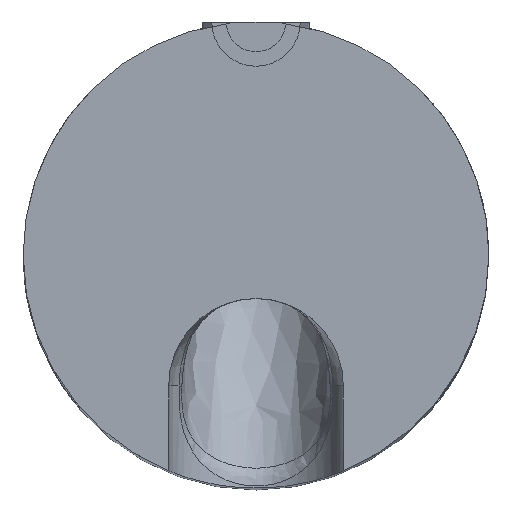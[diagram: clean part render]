
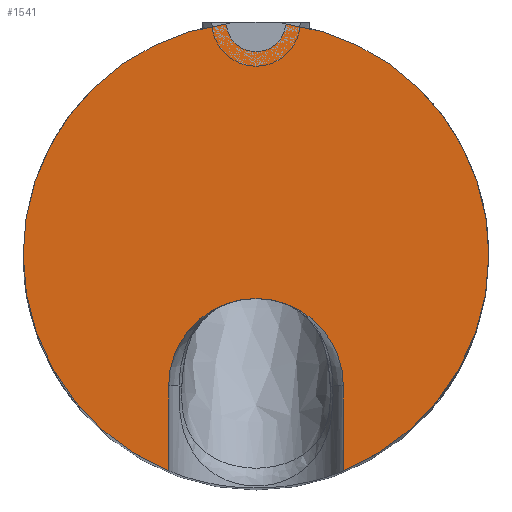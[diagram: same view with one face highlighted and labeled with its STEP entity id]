
A CAD part, top view. The second image highlights one B-rep face of the part: STEP entity #1541.
In plain terms, the highlighted planar face has unit normal (0, 0, 1).
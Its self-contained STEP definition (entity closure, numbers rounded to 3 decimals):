
#1=DIRECTION('',(0.,1.,0.));
#2=VECTOR('',#1,1.458);
#3=CARTESIAN_POINT('',(1.5,-7.708,0.6));
#4=LINE('',#3,#2);
#5=CARTESIAN_POINT('',(0.,-6.25,0.6));
#6=DIRECTION('',(0.,0.,1.));
#7=DIRECTION('',(1.,0.,0.));
#8=AXIS2_PLACEMENT_3D('',#5,#6,#7);
#10=CARTESIAN_POINT('',(0.,-4.,0.6));
#11=DIRECTION('',(0.,0.,-1.));
#12=DIRECTION('',(-0.375,-0.927,0.));
#13=AXIS2_PLACEMENT_3D('',#10,#11,#12);
#15=CARTESIAN_POINT('',(0.,-4.,0.6));
#16=DIRECTION('',(0.,0.,-1.));
#17=DIRECTION('',(-1.,0.,0.));
#18=AXIS2_PLACEMENT_3D('',#15,#16,#17);
#20=CARTESIAN_POINT('',(0.,0.,0.6));
#21=DIRECTION('',(0.,0.,1.));
#22=DIRECTION('',(-0.998,-0.064,0.));
#23=AXIS2_PLACEMENT_3D('',#20,#21,#22);
#25=CARTESIAN_POINT('',(0.,-4.,0.6));
#26=DIRECTION('',(0.,0.,-1.));
#27=DIRECTION('',(0.127,0.992,0.));
#28=AXIS2_PLACEMENT_3D('',#25,#26,#27);
#30=CARTESIAN_POINT('',(0.,-4.,0.6));
#31=DIRECTION('',(0.,0.,-1.));
#32=DIRECTION('',(1.,0.,0.));
#33=AXIS2_PLACEMENT_3D('',#30,#31,#32);
#1334=DIRECTION('',(0.,1.,0.));
#1335=VECTOR('',#1334,1.458);
#1336=CARTESIAN_POINT('',(-1.5,-7.708,0.6));
#1337=LINE('',#1336,#1335);
#1338=CARTESIAN_POINT('',(1.5,-7.708,0.6));
#1339=CARTESIAN_POINT('',(1.5,-6.25,0.6));
#1340=VERTEX_POINT('',#1338);
#1341=VERTEX_POINT('',#1339);
#1346=CARTESIAN_POINT('',(-1.5,-6.25,0.6));
#1347=VERTEX_POINT('',#1346);
#1348=CARTESIAN_POINT('',(-1.5,-7.708,0.6));
#1349=VERTEX_POINT('',#1348);
#1350=CARTESIAN_POINT('',(-4.,-4.,0.6));
#1351=VERTEX_POINT('',#1350);
#1352=CARTESIAN_POINT('',(-0.509,-0.033,0.6));
#1353=VERTEX_POINT('',#1352);
#1354=CARTESIAN_POINT('',(0.509,-0.033,0.6));
#1355=VERTEX_POINT('',#1354);
#1356=CARTESIAN_POINT('',(4.,-4.,0.6));
#1357=VERTEX_POINT('',#1356);
#1519=CARTESIAN_POINT('',(-4.25,-4.,0.6));
#1520=DIRECTION('',(0.,0.,1.));
#1521=DIRECTION('',(-1.,0.,0.));
#1522=AXIS2_PLACEMENT_3D('',#1519,#1520,#1521);
#1523=PLANE('',#1522);
#1524=ORIENTED_EDGE('',*,*,#1508,.T.);
#1526=ORIENTED_EDGE('',*,*,#1525,.T.);
#1528=ORIENTED_EDGE('',*,*,#1527,.F.);
#1530=ORIENTED_EDGE('',*,*,#1529,.T.);
#1532=ORIENTED_EDGE('',*,*,#1531,.T.);
#1534=ORIENTED_EDGE('',*,*,#1533,.T.);
#1536=ORIENTED_EDGE('',*,*,#1535,.T.);
#1538=ORIENTED_EDGE('',*,*,#1537,.T.);
#1539=EDGE_LOOP('',(#1524,#1526,#1528,#1530,#1532,#1534,#1536,#1538));
#1540=FACE_OUTER_BOUND('',#1539,.F.);
#1541=ADVANCED_FACE('',(#1540),#1523,.T.);
#9=CIRCLE('',#8,1.5);
#14=CIRCLE('',#13,4.);
#19=CIRCLE('',#18,4.);
#24=CIRCLE('',#23,0.51);
#29=CIRCLE('',#28,4.);
#34=CIRCLE('',#33,4.);
#1508=EDGE_CURVE('',#1340,#1341,#4,.T.);
#1525=EDGE_CURVE('',#1341,#1347,#9,.T.);
#1527=EDGE_CURVE('',#1349,#1347,#1337,.T.);
#1529=EDGE_CURVE('',#1349,#1351,#14,.T.);
#1531=EDGE_CURVE('',#1351,#1353,#19,.T.);
#1533=EDGE_CURVE('',#1353,#1355,#24,.T.);
#1535=EDGE_CURVE('',#1355,#1357,#29,.T.);
#1537=EDGE_CURVE('',#1357,#1340,#34,.T.);
